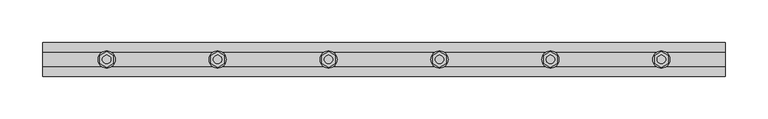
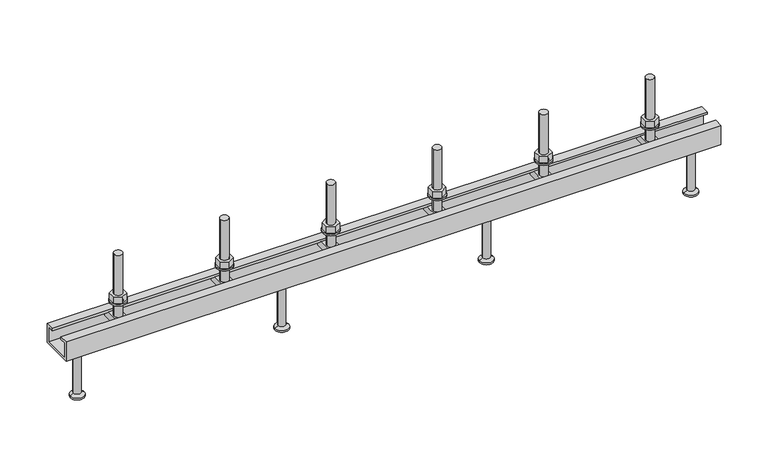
"""IFC4 building model written with IfcOpenShell, lengths in millimetres: fastener geometry, JTA-K JORDAHL® AnchorChannels : JTA-K L=800 mm."""

from ifc_helpers import new_model, si_unit, point, frame, frame_2d, origin, place, context, project, spatial, polyline, circle_curve, trimmed, segment, composite_curve, outline, extrude, source, transform, mapped, element, save
from ifc_brep_helpers import plane_surface, cylinder_surface, revolved_surface, advanced_brep


def fastener_59fca8c3(model_context):
    return source(origin(), model_context, "Body", "SolidModel", [
        extrude(outline(polyline([(595.0, -9.2376043), (587.0, -4.6188022), (587.0, 4.6188022), (595.0, 9.2376043), (603.0, 4.6188022), (603.0, -4.6188022), (595.0, -9.2376043)]), holes=[composite_curve([segment(trimmed(circle_curve(frame_2d((595.0, 0.0)), 5.0), [point((590.0, 0.0))], [point((600.0, 0.0))], True, "CARTESIAN"), True, "CONTINUOUS"), segment(trimmed(circle_curve(frame_2d((595.0, 0.0)), 5.0), [point((600.0, 0.0))], [point((590.0, 0.0))], True, "CARTESIAN"), True, "CONTINUOUS")], self_intersect=False)]), frame((0.0, 0.0, 17.0), z_axis=(0.0, 0.0, 1.0), x_axis=(1.0, 0.0, 0.0)), (0.0, 0.0, 1.0), 8.4),
        extrude(outline(composite_curve([segment(trimmed(circle_curve(frame_2d((595.0, 0.0)), 10.0), [point((585.0, 0.0))], [point((605.0, 0.0))], False, "CARTESIAN"), True, "CONTINUOUS"), segment(trimmed(circle_curve(frame_2d((595.0, 0.0)), 10.0), [point((605.0, 0.0))], [point((585.0, 0.0))], False, "CARTESIAN"), True, "CONTINUOUS")], self_intersect=False), holes=[composite_curve([segment(trimmed(circle_curve(frame_2d((595.0, 0.0)), 5.25), [point((589.75, 0.0))], [point((600.25, 0.0))], True, "CARTESIAN"), True, "CONTINUOUS"), segment(trimmed(circle_curve(frame_2d((595.0, 0.0)), 5.25), [point((600.25, 0.0))], [point((589.75, 0.0))], True, "CARTESIAN"), True, "CONTINUOUS")], self_intersect=False)]), frame((0.0, 0.0, 15.0), z_axis=(0.0, 0.0, 1.0), x_axis=(1.0, 0.0, 0.0)), (0.0, 0.0, 1.0), 2.0),
        extrude(outline(polyline([(465.0, -9.2376043), (457.0, -4.6188022), (457.0, 4.6188022), (465.0, 9.2376043), (473.0, 4.6188022), (473.0, -4.6188022), (465.0, -9.2376043)]), holes=[composite_curve([segment(trimmed(circle_curve(frame_2d((465.0, 0.0)), 5.0), [point((460.0, 0.0))], [point((470.0, 0.0))], True, "CARTESIAN"), True, "CONTINUOUS"), segment(trimmed(circle_curve(frame_2d((465.0, 0.0)), 5.0), [point((470.0, 0.0))], [point((460.0, 0.0))], True, "CARTESIAN"), True, "CONTINUOUS")], self_intersect=False)]), frame((0.0, 0.0, 17.0), z_axis=(0.0, 0.0, 1.0), x_axis=(1.0, 0.0, 0.0)), (0.0, 0.0, 1.0), 8.4),
        extrude(outline(composite_curve([segment(trimmed(circle_curve(frame_2d((465.0, 0.0)), 10.0), [point((455.0, 0.0))], [point((475.0, 0.0))], False, "CARTESIAN"), True, "CONTINUOUS"), segment(trimmed(circle_curve(frame_2d((465.0, 0.0)), 10.0), [point((475.0, 0.0))], [point((455.0, 0.0))], False, "CARTESIAN"), True, "CONTINUOUS")], self_intersect=False), holes=[composite_curve([segment(trimmed(circle_curve(frame_2d((465.0, 0.0)), 5.25), [point((459.75, 0.0))], [point((470.25, 0.0))], True, "CARTESIAN"), True, "CONTINUOUS"), segment(trimmed(circle_curve(frame_2d((465.0, 0.0)), 5.25), [point((470.25, 0.0))], [point((459.75, 0.0))], True, "CARTESIAN"), True, "CONTINUOUS")], self_intersect=False)]), frame((0.0, 0.0, 15.0), z_axis=(0.0, 0.0, 1.0), x_axis=(1.0, 0.0, 0.0)), (0.0, 0.0, 1.0), 2.0),
        extrude(outline(polyline([(335.0, -9.2376043), (327.0, -4.6188022), (327.0, 4.6188022), (335.0, 9.2376043), (343.0, 4.6188022), (343.0, -4.6188022), (335.0, -9.2376043)]), holes=[composite_curve([segment(trimmed(circle_curve(frame_2d((335.0, 0.0)), 5.0), [point((330.0, 0.0))], [point((340.0, 0.0))], True, "CARTESIAN"), True, "CONTINUOUS"), segment(trimmed(circle_curve(frame_2d((335.0, 0.0)), 5.0), [point((340.0, 0.0))], [point((330.0, 0.0))], True, "CARTESIAN"), True, "CONTINUOUS")], self_intersect=False)]), frame((0.0, 0.0, 17.0), z_axis=(0.0, 0.0, 1.0), x_axis=(1.0, 0.0, 0.0)), (0.0, 0.0, 1.0), 8.4),
        extrude(outline(composite_curve([segment(trimmed(circle_curve(frame_2d((335.0, 0.0)), 10.0), [point((325.0, 0.0))], [point((345.0, 0.0))], False, "CARTESIAN"), True, "CONTINUOUS"), segment(trimmed(circle_curve(frame_2d((335.0, 0.0)), 10.0), [point((345.0, 0.0))], [point((325.0, 0.0))], False, "CARTESIAN"), True, "CONTINUOUS")], self_intersect=False), holes=[composite_curve([segment(trimmed(circle_curve(frame_2d((335.0, 0.0)), 5.25), [point((329.75, 0.0))], [point((340.25, 0.0))], True, "CARTESIAN"), True, "CONTINUOUS"), segment(trimmed(circle_curve(frame_2d((335.0, 0.0)), 5.25), [point((340.25, 0.0))], [point((329.75, 0.0))], True, "CARTESIAN"), True, "CONTINUOUS")], self_intersect=False)]), frame((0.0, 0.0, 15.0), z_axis=(0.0, 0.0, 1.0), x_axis=(1.0, 0.0, 0.0)), (0.0, 0.0, 1.0), 2.0),
        extrude(outline(polyline([(205.0, -9.2376043), (197.0, -4.6188022), (197.0, 4.6188022), (205.0, 9.2376043), (213.0, 4.6188022), (213.0, -4.6188022), (205.0, -9.2376043)]), holes=[composite_curve([segment(trimmed(circle_curve(frame_2d((205.0, 0.0)), 5.0), [point((200.0, 0.0))], [point((210.0, 0.0))], True, "CARTESIAN"), True, "CONTINUOUS"), segment(trimmed(circle_curve(frame_2d((205.0, 0.0)), 5.0), [point((210.0, 0.0))], [point((200.0, 0.0))], True, "CARTESIAN"), True, "CONTINUOUS")], self_intersect=False)]), frame((0.0, 0.0, 17.0), z_axis=(0.0, 0.0, 1.0), x_axis=(1.0, 0.0, 0.0)), (0.0, 0.0, 1.0), 8.4),
        extrude(outline(composite_curve([segment(trimmed(circle_curve(frame_2d((205.0, 0.0)), 10.0), [point((195.0, 0.0))], [point((215.0, 0.0))], False, "CARTESIAN"), True, "CONTINUOUS"), segment(trimmed(circle_curve(frame_2d((205.0, 0.0)), 10.0), [point((215.0, 0.0))], [point((195.0, 0.0))], False, "CARTESIAN"), True, "CONTINUOUS")], self_intersect=False), holes=[composite_curve([segment(trimmed(circle_curve(frame_2d((205.0, 0.0)), 5.25), [point((199.75, 0.0))], [point((210.25, 0.0))], True, "CARTESIAN"), True, "CONTINUOUS"), segment(trimmed(circle_curve(frame_2d((205.0, 0.0)), 5.25), [point((210.25, 0.0))], [point((199.75, 0.0))], True, "CARTESIAN"), True, "CONTINUOUS")], self_intersect=False)]), frame((0.0, 0.0, 15.0), z_axis=(0.0, 0.0, 1.0), x_axis=(1.0, 0.0, 0.0)), (0.0, 0.0, 1.0), 2.0),
        advanced_brep(
        [(602.0, -16.0, -3.0), (602.0, -16.0, -11.0), (602.0, 16.0, -11.0), (602.0, 16.0, -3.0), (588.0, -16.0, -3.0), (588.0, 16.0, -3.0), (588.0, 16.0, -11.0), (588.0, -16.0, -11.0), (600.0, 0.0, -3.0), (590.0, 0.0, -3.0), (590.0, 0.0, 77.0), (600.0, 0.0, 77.0)],
        [
            (0, 1),
            (1, 2),
            (2, 3),
            (3, 0),
            (4, 5),
            (5, 6),
            (6, 7),
            (7, 4),
            (3, 5),
            (4, 0),
            (8, 9, circle_curve(frame((595.0, 0.0, -3.0), z_axis=(0.0, 0.0, -1.0), x_axis=(1.0, 0.0, 0.0)), 5.0)),
            (9, 8, circle_curve(frame((595.0, 0.0, -3.0), z_axis=(0.0, 0.0, -1.0), x_axis=(1.0, 0.0, 0.0)), 5.0)),
            (2, 6),
            (1, 7),
            (10, 11, circle_curve(frame((595.0, 0.0, 77.0), z_axis=(0.0, 0.0, 1.0), x_axis=(1.0, 0.0, 0.0)), 5.0)),
            (11, 10, circle_curve(frame((595.0, 0.0, 77.0), z_axis=(0.0, 0.0, 1.0), x_axis=(1.0, 0.0, 0.0)), 5.0)),
            (11, 8),
            (9, 10),
        ],
        [
            plane_surface(frame((602.0, 16.0, -3.0), z_axis=(1.0, 0.0, 0.0), x_axis=(0.0, 1.0, 0.0))),
            plane_surface(frame((588.0, 16.0, -3.0), z_axis=(-1.0, 0.0, 0.0), x_axis=(0.0, -1.0, 0.0))),
            plane_surface(frame((602.0, -16.0, -3.0), z_axis=(0.0, 0.0, 1.0), x_axis=(-1.0, 0.0, 0.0))),
            plane_surface(frame((602.0, 16.0, -3.0), z_axis=(0.0, 1.0, 0.0), x_axis=(-1.0, 0.0, 0.0))),
            plane_surface(frame((602.0, 16.0, -11.0), z_axis=(0.0, 0.0, -1.0), x_axis=(-1.0, 0.0, 0.0))),
            plane_surface(frame((602.0, -16.0, -11.0), z_axis=(0.0, -1.0, 0.0), x_axis=(-1.0, 0.0, 0.0))),
            plane_surface(frame((600.0, 0.0, 77.0), z_axis=(0.0, 0.0, 1.0), x_axis=(0.0, -1.0, 0.0))),
            cylinder_surface(frame((595.0, 0.0, -3.0), z_axis=(0.0, 0.0, 1.0), x_axis=(1.0, 0.0, 0.0)), 5.0),
        ],
        [
            (0, [[1, 2, 3, 4]]),
            (1, [[5, 6, 7, 8]]),
            (2, [[9, -5, 10, -4], [11, 12]]),
            (3, [[13, -6, -9, -3]]),
            (4, [[14, -7, -13, -2]]),
            (5, [[-10, -8, -14, -1]]),
            (6, [[15, 16]]),
            (7, [[17, -12, 18, -16]]),
            (7, [[-18, -11, -17, -15]]),
        ],
    ),
        advanced_brep(
        [(472.0, -16.0, -3.0), (472.0, -16.0, -11.0), (472.0, 16.0, -11.0), (472.0, 16.0, -3.0), (458.0, -16.0, -3.0), (458.0, 16.0, -3.0), (458.0, 16.0, -11.0), (458.0, -16.0, -11.0), (470.0, 0.0, -3.0), (460.0, 0.0, -3.0), (460.0, 0.0, 77.0), (470.0, 0.0, 77.0)],
        [
            (0, 1),
            (1, 2),
            (2, 3),
            (3, 0),
            (4, 5),
            (5, 6),
            (6, 7),
            (7, 4),
            (3, 5),
            (4, 0),
            (8, 9, circle_curve(frame((465.0, 0.0, -3.0), z_axis=(0.0, 0.0, -1.0), x_axis=(1.0, 0.0, 0.0)), 5.0)),
            (9, 8, circle_curve(frame((465.0, 0.0, -3.0), z_axis=(0.0, 0.0, -1.0), x_axis=(1.0, 0.0, 0.0)), 5.0)),
            (2, 6),
            (1, 7),
            (10, 11, circle_curve(frame((465.0, 0.0, 77.0), z_axis=(0.0, 0.0, 1.0), x_axis=(1.0, 0.0, 0.0)), 5.0)),
            (11, 10, circle_curve(frame((465.0, 0.0, 77.0), z_axis=(0.0, 0.0, 1.0), x_axis=(1.0, 0.0, 0.0)), 5.0)),
            (11, 8),
            (9, 10),
        ],
        [
            plane_surface(frame((472.0, 16.0, -3.0), z_axis=(1.0, 0.0, 0.0), x_axis=(0.0, 1.0, 0.0))),
            plane_surface(frame((458.0, 16.0, -3.0), z_axis=(-1.0, 0.0, 0.0), x_axis=(0.0, -1.0, 0.0))),
            plane_surface(frame((472.0, -16.0, -3.0), z_axis=(0.0, 0.0, 1.0), x_axis=(-1.0, 0.0, 0.0))),
            plane_surface(frame((472.0, 16.0, -3.0), z_axis=(0.0, 1.0, 0.0), x_axis=(-1.0, 0.0, 0.0))),
            plane_surface(frame((472.0, 16.0, -11.0), z_axis=(0.0, 0.0, -1.0), x_axis=(-1.0, 0.0, 0.0))),
            plane_surface(frame((472.0, -16.0, -11.0), z_axis=(0.0, -1.0, 0.0), x_axis=(-1.0, 0.0, 0.0))),
            plane_surface(frame((470.0, 0.0, 77.0), z_axis=(0.0, 0.0, 1.0), x_axis=(0.0, -1.0, 0.0))),
            cylinder_surface(frame((465.0, 0.0, -3.0), z_axis=(0.0, 0.0, 1.0), x_axis=(1.0, 0.0, 0.0)), 5.0),
        ],
        [
            (0, [[1, 2, 3, 4]]),
            (1, [[5, 6, 7, 8]]),
            (2, [[9, -5, 10, -4], [11, 12]]),
            (3, [[13, -6, -9, -3]]),
            (4, [[14, -7, -13, -2]]),
            (5, [[-10, -8, -14, -1]]),
            (6, [[15, 16]]),
            (7, [[17, -12, 18, -16]]),
            (7, [[-18, -11, -17, -15]]),
        ],
    ),
        advanced_brep(
        [(342.0, -16.0, -3.0), (342.0, -16.0, -11.0), (342.0, 16.0, -11.0), (342.0, 16.0, -3.0), (328.0, -16.0, -3.0), (328.0, 16.0, -3.0), (328.0, 16.0, -11.0), (328.0, -16.0, -11.0), (340.0, 0.0, -3.0), (330.0, 0.0, -3.0), (330.0, 0.0, 77.0), (340.0, 0.0, 77.0)],
        [
            (0, 1),
            (1, 2),
            (2, 3),
            (3, 0),
            (4, 5),
            (5, 6),
            (6, 7),
            (7, 4),
            (3, 5),
            (4, 0),
            (8, 9, circle_curve(frame((335.0, 0.0, -3.0), z_axis=(0.0, 0.0, -1.0), x_axis=(1.0, 0.0, 0.0)), 5.0)),
            (9, 8, circle_curve(frame((335.0, 0.0, -3.0), z_axis=(0.0, 0.0, -1.0), x_axis=(1.0, 0.0, 0.0)), 5.0)),
            (2, 6),
            (1, 7),
            (10, 11, circle_curve(frame((335.0, 0.0, 77.0), z_axis=(0.0, 0.0, 1.0), x_axis=(1.0, 0.0, 0.0)), 5.0)),
            (11, 10, circle_curve(frame((335.0, 0.0, 77.0), z_axis=(0.0, 0.0, 1.0), x_axis=(1.0, 0.0, 0.0)), 5.0)),
            (11, 8),
            (9, 10),
        ],
        [
            plane_surface(frame((342.0, 16.0, -3.0), z_axis=(1.0, 0.0, 0.0), x_axis=(0.0, 1.0, 0.0))),
            plane_surface(frame((328.0, 16.0, -3.0), z_axis=(-1.0, 0.0, 0.0), x_axis=(0.0, -1.0, 0.0))),
            plane_surface(frame((342.0, -16.0, -3.0), z_axis=(0.0, 0.0, 1.0), x_axis=(-1.0, 0.0, 0.0))),
            plane_surface(frame((342.0, 16.0, -3.0), z_axis=(0.0, 1.0, 0.0), x_axis=(-1.0, 0.0, 0.0))),
            plane_surface(frame((342.0, 16.0, -11.0), z_axis=(0.0, 0.0, -1.0), x_axis=(-1.0, 0.0, 0.0))),
            plane_surface(frame((342.0, -16.0, -11.0), z_axis=(0.0, -1.0, 0.0), x_axis=(-1.0, 0.0, 0.0))),
            plane_surface(frame((340.0, 0.0, 77.0), z_axis=(0.0, 0.0, 1.0), x_axis=(0.0, -1.0, 0.0))),
            cylinder_surface(frame((335.0, 0.0, -3.0), z_axis=(0.0, 0.0, 1.0), x_axis=(1.0, 0.0, 0.0)), 5.0),
        ],
        [
            (0, [[1, 2, 3, 4]]),
            (1, [[5, 6, 7, 8]]),
            (2, [[9, -5, 10, -4], [11, 12]]),
            (3, [[13, -6, -9, -3]]),
            (4, [[14, -7, -13, -2]]),
            (5, [[-10, -8, -14, -1]]),
            (6, [[15, 16]]),
            (7, [[17, -12, 18, -16]]),
            (7, [[-18, -11, -17, -15]]),
        ],
    ),
        advanced_brep(
        [(212.0, -16.0, -3.0), (212.0, -16.0, -11.0), (212.0, 16.0, -11.0), (212.0, 16.0, -3.0), (198.0, -16.0, -3.0), (198.0, 16.0, -3.0), (198.0, 16.0, -11.0), (198.0, -16.0, -11.0), (210.0, 0.0, -3.0), (200.0, 0.0, -3.0), (200.0, 0.0, 77.0), (210.0, 0.0, 77.0)],
        [
            (0, 1),
            (1, 2),
            (2, 3),
            (3, 0),
            (4, 5),
            (5, 6),
            (6, 7),
            (7, 4),
            (3, 5),
            (4, 0),
            (8, 9, circle_curve(frame((205.0, 0.0, -3.0), z_axis=(0.0, 0.0, -1.0), x_axis=(1.0, 0.0, 0.0)), 5.0)),
            (9, 8, circle_curve(frame((205.0, 0.0, -3.0), z_axis=(0.0, 0.0, -1.0), x_axis=(1.0, 0.0, 0.0)), 5.0)),
            (2, 6),
            (1, 7),
            (10, 11, circle_curve(frame((205.0, 0.0, 77.0), z_axis=(0.0, 0.0, 1.0), x_axis=(1.0, 0.0, 0.0)), 5.0)),
            (11, 10, circle_curve(frame((205.0, 0.0, 77.0), z_axis=(0.0, 0.0, 1.0), x_axis=(1.0, 0.0, 0.0)), 5.0)),
            (11, 8),
            (9, 10),
        ],
        [
            plane_surface(frame((212.0, 16.0, -3.0), z_axis=(1.0, 0.0, 0.0), x_axis=(0.0, 1.0, 0.0))),
            plane_surface(frame((198.0, 16.0, -3.0), z_axis=(-1.0, 0.0, 0.0), x_axis=(0.0, -1.0, 0.0))),
            plane_surface(frame((212.0, -16.0, -3.0), z_axis=(0.0, 0.0, 1.0), x_axis=(-1.0, 0.0, 0.0))),
            plane_surface(frame((212.0, 16.0, -3.0), z_axis=(0.0, 1.0, 0.0), x_axis=(-1.0, 0.0, 0.0))),
            plane_surface(frame((212.0, 16.0, -11.0), z_axis=(0.0, 0.0, -1.0), x_axis=(-1.0, 0.0, 0.0))),
            plane_surface(frame((212.0, -16.0, -11.0), z_axis=(0.0, -1.0, 0.0), x_axis=(-1.0, 0.0, 0.0))),
            plane_surface(frame((210.0, 0.0, 77.0), z_axis=(0.0, 0.0, 1.0), x_axis=(0.0, -1.0, 0.0))),
            cylinder_surface(frame((205.0, 0.0, -3.0), z_axis=(0.0, 0.0, 1.0), x_axis=(1.0, 0.0, 0.0)), 5.0),
        ],
        [
            (0, [[1, 2, 3, 4]]),
            (1, [[5, 6, 7, 8]]),
            (2, [[9, -5, 10, -4], [11, 12]]),
            (3, [[13, -6, -9, -3]]),
            (4, [[14, -7, -13, -2]]),
            (5, [[-10, -8, -14, -1]]),
            (6, [[15, 16]]),
            (7, [[17, -12, 18, -16]]),
            (7, [[-18, -11, -17, -15]]),
        ],
    ),
        advanced_brep(
        [(525.0, 0.0, -25.0), (511.5, 0.0, -25.0), (538.5, 0.0, -25.0), (516.5, 0.0, -90.0), (525.0, 0.0, -90.0), (533.5, 0.0, -90.0), (516.5, 0.0, -88.0), (533.5, 0.0, -88.0), (520.5, 0.0, -85.6905989), (529.5, 0.0, -85.6905989), (520.5, 0.0, -27.5), (529.5, 0.0, -27.5)],
        [
            (0, 1),
            (1, 2, circle_curve(frame((525.0, 0.0, -25.0), z_axis=(0.0, 0.0, 1.0), x_axis=(1.0, 0.0, 0.0)), 13.5)),
            (2, 0),
            (2, 1, circle_curve(frame((525.0, 0.0, -25.0), z_axis=(0.0, 0.0, 1.0), x_axis=(1.0, 0.0, 0.0)), 13.5)),
            (3, 4),
            (4, 5),
            (5, 3, circle_curve(frame((525.0, 0.0, -90.0), z_axis=(0.0, 0.0, -1.0), x_axis=(1.0, 0.0, 0.0)), 8.5)),
            (3, 5, circle_curve(frame((525.0, 0.0, -90.0), z_axis=(0.0, 0.0, -1.0), x_axis=(1.0, 0.0, 0.0)), 8.5)),
            (6, 3),
            (5, 7),
            (7, 6, circle_curve(frame((525.0, 0.0, -88.0), z_axis=(0.0, 0.0, -1.0), x_axis=(1.0, 0.0, 0.0)), 8.5)),
            (6, 7, circle_curve(frame((525.0, 0.0, -88.0), z_axis=(0.0, 0.0, -1.0), x_axis=(1.0, 0.0, 0.0)), 8.5)),
            (8, 6),
            (7, 9),
            (9, 8, circle_curve(frame((525.0, 0.0, -85.6905989), z_axis=(0.0, 0.0, -1.0), x_axis=(1.0, 0.0, 0.0)), 4.5)),
            (8, 9, circle_curve(frame((525.0, 0.0, -85.6905989), z_axis=(0.0, 0.0, -1.0), x_axis=(1.0, 0.0, 0.0)), 4.5)),
            (10, 8),
            (9, 11),
            (11, 10, circle_curve(frame((525.0, 0.0, -27.5), z_axis=(0.0, 0.0, -1.0), x_axis=(1.0, 0.0, 0.0)), 4.5)),
            (10, 11, circle_curve(frame((525.0, 0.0, -27.5), z_axis=(0.0, 0.0, -1.0), x_axis=(1.0, 0.0, 0.0)), 4.5)),
            (1, 10),
            (11, 2),
        ],
        [
            plane_surface(frame((525.0, 0.0, -25.0), z_axis=(0.0, 0.0, 1.0), x_axis=(1.0, 0.0, 0.0))),
            plane_surface(frame((525.0, 0.0, -90.0), z_axis=(0.0, 0.0, -1.0), x_axis=(1.0, 0.0, 0.0))),
            cylinder_surface(frame((525.0, 0.0, 2279.3150031), z_axis=(0.0, 0.0, 1.0), x_axis=(1.0, 0.0, 0.0)), 8.5),
            revolved_surface(polyline([(533.5, 0.0, -88.0), (529.5, 0.0, -85.6905989)]), (525.0, 0.0, 2279.3150031), (0.0, 0.0, 1.0)),
            cylinder_surface(frame((525.0, 0.0, 2279.3150031), z_axis=(0.0, 0.0, 1.0), x_axis=(1.0, 0.0, 0.0)), 4.5),
            revolved_surface(polyline([(529.5, 0.0, -27.5), (538.5, 0.0, -25.0)]), (525.0, 0.0, 2279.3150031), (0.0, 0.0, 1.0)),
        ],
        [
            (0, [[1, 2, 3]]),
            (0, [[-3, 4, -1]]),
            (1, [[5, 6, 7]]),
            (1, [[-6, -5, 8]]),
            (2, [[9, -7, 10, 11]]),
            (2, [[-10, -8, -9, 12]]),
            (3, [[13, -11, 14, 15]]),
            (3, [[-14, -12, -13, 16]]),
            (4, [[17, -15, 18, 19]]),
            (4, [[-18, -16, -17, 20]]),
            (5, [[21, -19, 22, -2]]),
            (5, [[-22, -20, -21, -4]]),
        ],
    ),
        advanced_brep(
        [(275.0, 0.0, -25.0), (261.5, 0.0, -25.0), (288.5, 0.0, -25.0), (266.5, 0.0, -90.0), (275.0, 0.0, -90.0), (283.5, 0.0, -90.0), (266.5, 0.0, -88.0), (283.5, 0.0, -88.0), (270.5, 0.0, -85.6905989), (279.5, 0.0, -85.6905989), (270.5, 0.0, -27.5), (279.5, 0.0, -27.5)],
        [
            (0, 1),
            (1, 2, circle_curve(frame((275.0, 0.0, -25.0), z_axis=(0.0, 0.0, 1.0), x_axis=(1.0, 0.0, 0.0)), 13.5)),
            (2, 0),
            (2, 1, circle_curve(frame((275.0, 0.0, -25.0), z_axis=(0.0, 0.0, 1.0), x_axis=(1.0, 0.0, 0.0)), 13.5)),
            (3, 4),
            (4, 5),
            (5, 3, circle_curve(frame((275.0, 0.0, -90.0), z_axis=(0.0, 0.0, -1.0), x_axis=(1.0, 0.0, 0.0)), 8.5)),
            (3, 5, circle_curve(frame((275.0, 0.0, -90.0), z_axis=(0.0, 0.0, -1.0), x_axis=(1.0, 0.0, 0.0)), 8.5)),
            (6, 3),
            (5, 7),
            (7, 6, circle_curve(frame((275.0, 0.0, -88.0), z_axis=(0.0, 0.0, -1.0), x_axis=(1.0, 0.0, 0.0)), 8.5)),
            (6, 7, circle_curve(frame((275.0, 0.0, -88.0), z_axis=(0.0, 0.0, -1.0), x_axis=(1.0, 0.0, 0.0)), 8.5)),
            (8, 6),
            (7, 9),
            (9, 8, circle_curve(frame((275.0, 0.0, -85.6905989), z_axis=(0.0, 0.0, -1.0), x_axis=(1.0, 0.0, 0.0)), 4.5)),
            (8, 9, circle_curve(frame((275.0, 0.0, -85.6905989), z_axis=(0.0, 0.0, -1.0), x_axis=(1.0, 0.0, 0.0)), 4.5)),
            (10, 8),
            (9, 11),
            (11, 10, circle_curve(frame((275.0, 0.0, -27.5), z_axis=(0.0, 0.0, -1.0), x_axis=(1.0, 0.0, 0.0)), 4.5)),
            (10, 11, circle_curve(frame((275.0, 0.0, -27.5), z_axis=(0.0, 0.0, -1.0), x_axis=(1.0, 0.0, 0.0)), 4.5)),
            (1, 10),
            (11, 2),
        ],
        [
            plane_surface(frame((275.0, 0.0, -25.0), z_axis=(0.0, 0.0, 1.0), x_axis=(1.0, 0.0, 0.0))),
            plane_surface(frame((275.0, 0.0, -90.0), z_axis=(0.0, 0.0, -1.0), x_axis=(1.0, 0.0, 0.0))),
            cylinder_surface(frame((275.0, 0.0, 2279.3150031), z_axis=(0.0, 0.0, 1.0), x_axis=(1.0, 0.0, 0.0)), 8.5),
            revolved_surface(polyline([(283.5, 0.0, -88.0), (279.5, 0.0, -85.6905989)]), (275.0, 0.0, 2279.3150031), (0.0, 0.0, 1.0)),
            cylinder_surface(frame((275.0, 0.0, 2279.3150031), z_axis=(0.0, 0.0, 1.0), x_axis=(1.0, 0.0, 0.0)), 4.5),
            revolved_surface(polyline([(279.5, 0.0, -27.5), (288.5, 0.0, -25.0)]), (275.0, 0.0, 2279.3150031), (0.0, 0.0, 1.0)),
        ],
        [
            (0, [[1, 2, 3]]),
            (0, [[-3, 4, -1]]),
            (1, [[5, 6, 7]]),
            (1, [[-6, -5, 8]]),
            (2, [[9, -7, 10, 11]]),
            (2, [[-10, -8, -9, 12]]),
            (3, [[13, -11, 14, 15]]),
            (3, [[-14, -12, -13, 16]]),
            (4, [[17, -15, 18, 19]]),
            (4, [[-18, -16, -17, 20]]),
            (5, [[21, -19, 22, -2]]),
            (5, [[-22, -20, -21, -4]]),
        ],
    ),
        extrude(outline(polyline([(725.0, -9.2376043), (717.0, -4.6188022), (717.0, 4.6188022), (725.0, 9.2376043), (733.0, 4.6188022), (733.0, -4.6188022), (725.0, -9.2376043)]), holes=[composite_curve([segment(trimmed(circle_curve(frame_2d((725.0, 0.0)), 5.0), [point((720.0, 0.0))], [point((730.0, 0.0))], True, "CARTESIAN"), True, "CONTINUOUS"), segment(trimmed(circle_curve(frame_2d((725.0, 0.0)), 5.0), [point((730.0, 0.0))], [point((720.0, 0.0))], True, "CARTESIAN"), True, "CONTINUOUS")], self_intersect=False)]), frame((0.0, 0.0, 17.0), z_axis=(0.0, 0.0, 1.0), x_axis=(1.0, 0.0, 0.0)), (0.0, 0.0, 1.0), 8.4),
        extrude(outline(composite_curve([segment(trimmed(circle_curve(frame_2d((725.0, 0.0)), 10.0), [point((715.0, 0.0))], [point((735.0, 0.0))], False, "CARTESIAN"), True, "CONTINUOUS"), segment(trimmed(circle_curve(frame_2d((725.0, 0.0)), 10.0), [point((735.0, 0.0))], [point((715.0, 0.0))], False, "CARTESIAN"), True, "CONTINUOUS")], self_intersect=False), holes=[composite_curve([segment(trimmed(circle_curve(frame_2d((725.0, 0.0)), 5.25), [point((719.75, 0.0))], [point((730.25, 0.0))], True, "CARTESIAN"), True, "CONTINUOUS"), segment(trimmed(circle_curve(frame_2d((725.0, 0.0)), 5.25), [point((730.25, 0.0))], [point((719.75, 0.0))], True, "CARTESIAN"), True, "CONTINUOUS")], self_intersect=False)]), frame((0.0, 0.0, 15.0), z_axis=(0.0, 0.0, 1.0), x_axis=(1.0, 0.0, 0.0)), (0.0, 0.0, 1.0), 2.0),
        extrude(outline(polyline([(75.0, -9.2376043), (67.0, -4.6188022), (67.0, 4.6188022), (75.0, 9.2376043), (83.0, 4.6188022), (83.0, -4.6188022), (75.0, -9.2376043)]), holes=[composite_curve([segment(trimmed(circle_curve(frame_2d((75.0, 0.0)), 5.0), [point((70.0, 0.0))], [point((80.0, 0.0))], True, "CARTESIAN"), True, "CONTINUOUS"), segment(trimmed(circle_curve(frame_2d((75.0, 0.0)), 5.0), [point((80.0, 0.0))], [point((70.0, 0.0))], True, "CARTESIAN"), True, "CONTINUOUS")], self_intersect=False)]), frame((0.0, 0.0, 17.0), z_axis=(0.0, 0.0, 1.0), x_axis=(1.0, 0.0, 0.0)), (0.0, 0.0, 1.0), 8.4),
        extrude(outline(composite_curve([segment(trimmed(circle_curve(frame_2d((75.0, 0.0)), 10.0), [point((65.0, 0.0))], [point((85.0, 0.0))], False, "CARTESIAN"), True, "CONTINUOUS"), segment(trimmed(circle_curve(frame_2d((75.0, 0.0)), 10.0), [point((85.0, 0.0))], [point((65.0, 0.0))], False, "CARTESIAN"), True, "CONTINUOUS")], self_intersect=False), holes=[composite_curve([segment(trimmed(circle_curve(frame_2d((75.0, 0.0)), 5.25), [point((69.75, 0.0))], [point((80.25, 0.0))], True, "CARTESIAN"), True, "CONTINUOUS"), segment(trimmed(circle_curve(frame_2d((75.0, 0.0)), 5.25), [point((80.25, 0.0))], [point((69.75, 0.0))], True, "CARTESIAN"), True, "CONTINUOUS")], self_intersect=False)]), frame((0.0, 0.0, 15.0), z_axis=(0.0, 0.0, 1.0), x_axis=(1.0, 0.0, 0.0)), (0.0, 0.0, 1.0), 2.0),
        advanced_brep(
        [(732.0, -16.0, -3.0), (732.0, -16.0, -11.0), (732.0, 16.0, -11.0), (732.0, 16.0, -3.0), (718.0, -16.0, -3.0), (718.0, 16.0, -3.0), (718.0, 16.0, -11.0), (718.0, -16.0, -11.0), (730.0, 0.0, -3.0), (720.0, 0.0, -3.0), (720.0, 0.0, 77.0), (730.0, 0.0, 77.0)],
        [
            (0, 1),
            (1, 2),
            (2, 3),
            (3, 0),
            (4, 5),
            (5, 6),
            (6, 7),
            (7, 4),
            (3, 5),
            (4, 0),
            (8, 9, circle_curve(frame((725.0, 0.0, -3.0), z_axis=(0.0, 0.0, -1.0), x_axis=(1.0, 0.0, 0.0)), 5.0)),
            (9, 8, circle_curve(frame((725.0, 0.0, -3.0), z_axis=(0.0, 0.0, -1.0), x_axis=(1.0, 0.0, 0.0)), 5.0)),
            (2, 6),
            (1, 7),
            (10, 11, circle_curve(frame((725.0, 0.0, 77.0), z_axis=(0.0, 0.0, 1.0), x_axis=(1.0, 0.0, 0.0)), 5.0)),
            (11, 10, circle_curve(frame((725.0, 0.0, 77.0), z_axis=(0.0, 0.0, 1.0), x_axis=(1.0, 0.0, 0.0)), 5.0)),
            (11, 8),
            (9, 10),
        ],
        [
            plane_surface(frame((732.0, 16.0, -3.0), z_axis=(1.0, 0.0, 0.0), x_axis=(0.0, 1.0, 0.0))),
            plane_surface(frame((718.0, 16.0, -3.0), z_axis=(-1.0, 0.0, 0.0), x_axis=(0.0, -1.0, 0.0))),
            plane_surface(frame((732.0, -16.0, -3.0), z_axis=(0.0, 0.0, 1.0), x_axis=(-1.0, 0.0, 0.0))),
            plane_surface(frame((732.0, 16.0, -3.0), z_axis=(0.0, 1.0, 0.0), x_axis=(-1.0, 0.0, 0.0))),
            plane_surface(frame((732.0, 16.0, -11.0), z_axis=(0.0, 0.0, -1.0), x_axis=(-1.0, 0.0, 0.0))),
            plane_surface(frame((732.0, -16.0, -11.0), z_axis=(0.0, -1.0, 0.0), x_axis=(-1.0, 0.0, 0.0))),
            plane_surface(frame((730.0, 0.0, 77.0), z_axis=(0.0, 0.0, 1.0), x_axis=(0.0, -1.0, 0.0))),
            cylinder_surface(frame((725.0, 0.0, -3.0), z_axis=(0.0, 0.0, 1.0), x_axis=(1.0, 0.0, 0.0)), 5.0),
        ],
        [
            (0, [[1, 2, 3, 4]]),
            (1, [[5, 6, 7, 8]]),
            (2, [[9, -5, 10, -4], [11, 12]]),
            (3, [[13, -6, -9, -3]]),
            (4, [[14, -7, -13, -2]]),
            (5, [[-10, -8, -14, -1]]),
            (6, [[15, 16]]),
            (7, [[17, -12, 18, -16]]),
            (7, [[-18, -11, -17, -15]]),
        ],
    ),
        advanced_brep(
        [(82.0, -16.0, -3.0), (82.0, -16.0, -11.0), (82.0, 16.0, -11.0), (82.0, 16.0, -3.0), (68.0, -16.0, -3.0), (68.0, 16.0, -3.0), (68.0, 16.0, -11.0), (68.0, -16.0, -11.0), (80.0, 0.0, -3.0), (70.0, 0.0, -3.0), (70.0, 0.0, 77.0), (80.0, 0.0, 77.0)],
        [
            (0, 1),
            (1, 2),
            (2, 3),
            (3, 0),
            (4, 5),
            (5, 6),
            (6, 7),
            (7, 4),
            (3, 5),
            (4, 0),
            (8, 9, circle_curve(frame((75.0, 0.0, -3.0), z_axis=(0.0, 0.0, -1.0), x_axis=(1.0, 0.0, 0.0)), 5.0)),
            (9, 8, circle_curve(frame((75.0, 0.0, -3.0), z_axis=(0.0, 0.0, -1.0), x_axis=(1.0, 0.0, 0.0)), 5.0)),
            (2, 6),
            (1, 7),
            (10, 11, circle_curve(frame((75.0, 0.0, 77.0), z_axis=(0.0, 0.0, 1.0), x_axis=(1.0, 0.0, 0.0)), 5.0)),
            (11, 10, circle_curve(frame((75.0, 0.0, 77.0), z_axis=(0.0, 0.0, 1.0), x_axis=(1.0, 0.0, 0.0)), 5.0)),
            (11, 8),
            (9, 10),
        ],
        [
            plane_surface(frame((82.0, 16.0, -3.0), z_axis=(1.0, 0.0, 0.0), x_axis=(0.0, 1.0, 0.0))),
            plane_surface(frame((68.0, 16.0, -3.0), z_axis=(-1.0, 0.0, 0.0), x_axis=(0.0, -1.0, 0.0))),
            plane_surface(frame((82.0, -16.0, -3.0), z_axis=(0.0, 0.0, 1.0), x_axis=(-1.0, 0.0, 0.0))),
            plane_surface(frame((82.0, 16.0, -3.0), z_axis=(0.0, 1.0, 0.0), x_axis=(-1.0, 0.0, 0.0))),
            plane_surface(frame((82.0, 16.0, -11.0), z_axis=(0.0, 0.0, -1.0), x_axis=(-1.0, 0.0, 0.0))),
            plane_surface(frame((82.0, -16.0, -11.0), z_axis=(0.0, -1.0, 0.0), x_axis=(-1.0, 0.0, 0.0))),
            plane_surface(frame((80.0, 0.0, 77.0), z_axis=(0.0, 0.0, 1.0), x_axis=(0.0, -1.0, 0.0))),
            cylinder_surface(frame((75.0, 0.0, -3.0), z_axis=(0.0, 0.0, 1.0), x_axis=(1.0, 0.0, 0.0)), 5.0),
        ],
        [
            (0, [[1, 2, 3, 4]]),
            (1, [[5, 6, 7, 8]]),
            (2, [[9, -5, 10, -4], [11, 12]]),
            (3, [[13, -6, -9, -3]]),
            (4, [[14, -7, -13, -2]]),
            (5, [[-10, -8, -14, -1]]),
            (6, [[15, 16]]),
            (7, [[17, -12, 18, -16]]),
            (7, [[-18, -11, -17, -15]]),
        ],
    ),
        advanced_brep(
        [(775.0, 0.0, -25.0), (761.5, 0.0, -25.0), (788.5, 0.0, -25.0), (766.5, 0.0, -90.0), (775.0, 0.0, -90.0), (783.5, 0.0, -90.0), (766.5, 0.0, -88.0), (783.5, 0.0, -88.0), (770.5, 0.0, -85.6905989), (779.5, 0.0, -85.6905989), (770.5, 0.0, -27.5), (779.5, 0.0, -27.5)],
        [
            (0, 1),
            (1, 2, circle_curve(frame((775.0, 0.0, -25.0), z_axis=(0.0, 0.0, 1.0), x_axis=(1.0, 0.0, 0.0)), 13.5)),
            (2, 0),
            (2, 1, circle_curve(frame((775.0, 0.0, -25.0), z_axis=(0.0, 0.0, 1.0), x_axis=(1.0, 0.0, 0.0)), 13.5)),
            (3, 4),
            (4, 5),
            (5, 3, circle_curve(frame((775.0, 0.0, -90.0), z_axis=(0.0, 0.0, -1.0), x_axis=(1.0, 0.0, 0.0)), 8.5)),
            (3, 5, circle_curve(frame((775.0, 0.0, -90.0), z_axis=(0.0, 0.0, -1.0), x_axis=(1.0, 0.0, 0.0)), 8.5)),
            (6, 3),
            (5, 7),
            (7, 6, circle_curve(frame((775.0, 0.0, -88.0), z_axis=(0.0, 0.0, -1.0), x_axis=(1.0, 0.0, 0.0)), 8.5)),
            (6, 7, circle_curve(frame((775.0, 0.0, -88.0), z_axis=(0.0, 0.0, -1.0), x_axis=(1.0, 0.0, 0.0)), 8.5)),
            (8, 6),
            (7, 9),
            (9, 8, circle_curve(frame((775.0, 0.0, -85.6905989), z_axis=(0.0, 0.0, -1.0), x_axis=(1.0, 0.0, 0.0)), 4.5)),
            (8, 9, circle_curve(frame((775.0, 0.0, -85.6905989), z_axis=(0.0, 0.0, -1.0), x_axis=(1.0, 0.0, 0.0)), 4.5)),
            (10, 8),
            (9, 11),
            (11, 10, circle_curve(frame((775.0, 0.0, -27.5), z_axis=(0.0, 0.0, -1.0), x_axis=(1.0, 0.0, 0.0)), 4.5)),
            (10, 11, circle_curve(frame((775.0, 0.0, -27.5), z_axis=(0.0, 0.0, -1.0), x_axis=(1.0, 0.0, 0.0)), 4.5)),
            (1, 10),
            (11, 2),
        ],
        [
            plane_surface(frame((775.0, 0.0, -25.0), z_axis=(0.0, 0.0, 1.0), x_axis=(1.0, 0.0, 0.0))),
            plane_surface(frame((775.0, 0.0, -90.0), z_axis=(0.0, 0.0, -1.0), x_axis=(1.0, 0.0, 0.0))),
            cylinder_surface(frame((775.0, 0.0, 2279.3150031), z_axis=(0.0, 0.0, 1.0), x_axis=(1.0, 0.0, 0.0)), 8.5),
            revolved_surface(polyline([(783.5, 0.0, -88.0), (779.5, 0.0, -85.6905989)]), (775.0, 0.0, 2279.3150031), (0.0, 0.0, 1.0)),
            cylinder_surface(frame((775.0, 0.0, 2279.3150031), z_axis=(0.0, 0.0, 1.0), x_axis=(1.0, 0.0, 0.0)), 4.5),
            revolved_surface(polyline([(779.5, 0.0, -27.5), (788.5, 0.0, -25.0)]), (775.0, 0.0, 2279.3150031), (0.0, 0.0, 1.0)),
        ],
        [
            (0, [[1, 2, 3]]),
            (0, [[-3, 4, -1]]),
            (1, [[5, 6, 7]]),
            (1, [[-6, -5, 8]]),
            (2, [[9, -7, 10, 11]]),
            (2, [[-10, -8, -9, 12]]),
            (3, [[13, -11, 14, 15]]),
            (3, [[-14, -12, -13, 16]]),
            (4, [[17, -15, 18, 19]]),
            (4, [[-18, -16, -17, 20]]),
            (5, [[21, -19, 22, -2]]),
            (5, [[-22, -20, -21, -4]]),
        ],
    ),
        advanced_brep(
        [(25.0, 0.0, -25.0), (11.5, 0.0, -25.0), (38.5, 0.0, -25.0), (16.5, 0.0, -90.0), (25.0, 0.0, -90.0), (33.5, 0.0, -90.0), (16.5, 0.0, -88.0), (33.5, 0.0, -88.0), (20.5, 0.0, -85.6905989), (29.5, 0.0, -85.6905989), (20.5, 0.0, -27.5), (29.5, 0.0, -27.5)],
        [
            (0, 1),
            (1, 2, circle_curve(frame((25.0, 0.0, -25.0), z_axis=(0.0, 0.0, 1.0), x_axis=(1.0, 0.0, 0.0)), 13.5)),
            (2, 0),
            (2, 1, circle_curve(frame((25.0, 0.0, -25.0), z_axis=(0.0, 0.0, 1.0), x_axis=(1.0, 0.0, 0.0)), 13.5)),
            (3, 4),
            (4, 5),
            (5, 3, circle_curve(frame((25.0, 0.0, -90.0), z_axis=(0.0, 0.0, -1.0), x_axis=(1.0, 0.0, 0.0)), 8.5)),
            (3, 5, circle_curve(frame((25.0, 0.0, -90.0), z_axis=(0.0, 0.0, -1.0), x_axis=(1.0, 0.0, 0.0)), 8.5)),
            (6, 3),
            (5, 7),
            (7, 6, circle_curve(frame((25.0, 0.0, -88.0), z_axis=(0.0, 0.0, -1.0), x_axis=(1.0, 0.0, 0.0)), 8.5)),
            (6, 7, circle_curve(frame((25.0, 0.0, -88.0), z_axis=(0.0, 0.0, -1.0), x_axis=(1.0, 0.0, 0.0)), 8.5)),
            (8, 6),
            (7, 9),
            (9, 8, circle_curve(frame((25.0, 0.0, -85.6905989), z_axis=(0.0, 0.0, -1.0), x_axis=(1.0, 0.0, 0.0)), 4.5)),
            (8, 9, circle_curve(frame((25.0, 0.0, -85.6905989), z_axis=(0.0, 0.0, -1.0), x_axis=(1.0, 0.0, 0.0)), 4.5)),
            (10, 8),
            (9, 11),
            (11, 10, circle_curve(frame((25.0, 0.0, -27.5), z_axis=(0.0, 0.0, -1.0), x_axis=(1.0, 0.0, 0.0)), 4.5)),
            (10, 11, circle_curve(frame((25.0, 0.0, -27.5), z_axis=(0.0, 0.0, -1.0), x_axis=(1.0, 0.0, 0.0)), 4.5)),
            (1, 10),
            (11, 2),
        ],
        [
            plane_surface(frame((25.0, 0.0, -25.0), z_axis=(0.0, 0.0, 1.0), x_axis=(1.0, 0.0, 0.0))),
            plane_surface(frame((25.0, 0.0, -90.0), z_axis=(0.0, 0.0, -1.0), x_axis=(1.0, 0.0, 0.0))),
            cylinder_surface(frame((25.0, 0.0, 2279.3150031), z_axis=(0.0, 0.0, 1.0), x_axis=(1.0, 0.0, 0.0)), 8.5),
            revolved_surface(polyline([(33.5, 0.0, -88.0), (29.5, 0.0, -85.6905989)]), (25.0, 0.0, 2279.3150031), (0.0, 0.0, 1.0)),
            cylinder_surface(frame((25.0, 0.0, 2279.3150031), z_axis=(0.0, 0.0, 1.0), x_axis=(1.0, 0.0, 0.0)), 4.5),
            revolved_surface(polyline([(29.5, 0.0, -27.5), (38.5, 0.0, -25.0)]), (25.0, 0.0, 2279.3150031), (0.0, 0.0, 1.0)),
        ],
        [
            (0, [[1, 2, 3]]),
            (0, [[-3, 4, -1]]),
            (1, [[5, 6, 7]]),
            (1, [[-6, -5, 8]]),
            (2, [[9, -7, 10, 11]]),
            (2, [[-10, -8, -9, 12]]),
            (3, [[13, -11, 14, 15]]),
            (3, [[-14, -12, -13, 16]]),
            (4, [[17, -15, 18, 19]]),
            (4, [[-18, -16, -17, 20]]),
            (5, [[21, -19, 22, -2]]),
            (5, [[-22, -20, -21, -4]]),
        ],
    ),
        extrude(outline(polyline([(-20.0, 0.0), (-9.0, 0.0), (-9.0, -3.0), (-17.0, -3.0), (-17.0, -22.0), (17.0, -22.0), (17.0, -3.0), (9.0, -3.0), (9.0, 0.0), (20.0, 0.0), (20.0, -25.0), (-20.0, -25.0), (-20.0, 0.0)])), frame((0.0, 0.0, 0.0), z_axis=(1.0, 0.0, 0.0), x_axis=(0.0, 1.0, 0.0)), (0.0, 0.0, 1.0), 800.0),
    ])


if __name__ == "__main__":
    model = new_model("IFC4")
    model_context = context("Model", 3, world=origin())
    ifc_project = project(units=[si_unit("LENGTHUNIT", "METRE", prefix="MILLI")], contexts=[model_context])
    site = spatial("IfcSite", under=ifc_project)
    building = spatial("IfcBuilding", under=site)
    placement = place(None, origin())
    fastener_shape = fastener_59fca8c3(model_context)
    element("IfcFastener", 1, ObjectType="JTA-K JORDAHL® AnchorChannels : JTA-K L=800 mm", at=placement, inside=building, context=model_context, shape_type="MappedRepresentation", body=[
        mapped(fastener_shape, transform((0.0, 0.0, 0.0), x_axis=(1.0, 0.0, 0.0), y_axis=(0.0, 1.0, 0.0), z_axis=(0.0, 0.0, 1.0))),
    ])
    save(model, "model.ifc")
